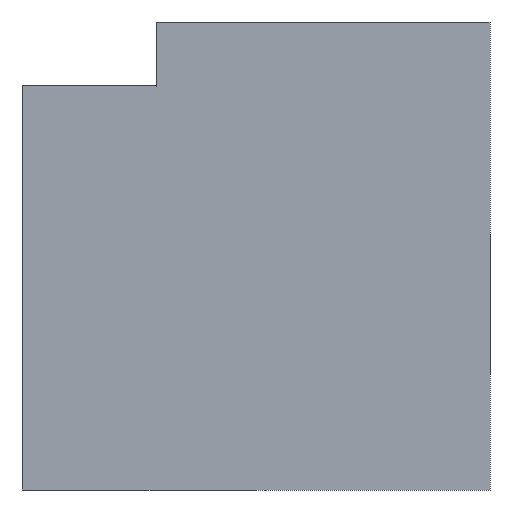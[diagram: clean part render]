
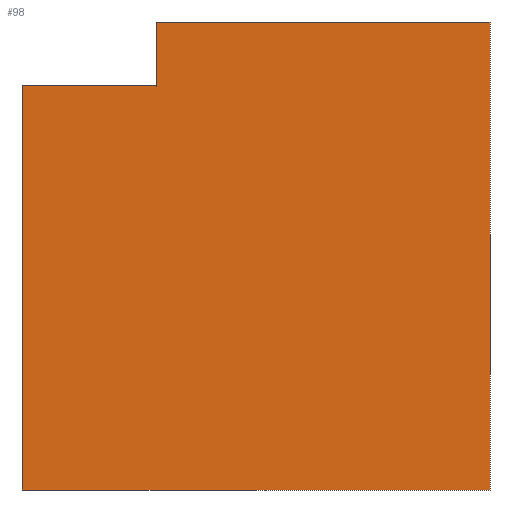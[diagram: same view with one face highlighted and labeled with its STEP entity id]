
A CAD part, left-side view. The second image highlights one B-rep face of the part: STEP entity #98.
In plain terms, the highlighted planar face has unit normal (-1, 0, 0).
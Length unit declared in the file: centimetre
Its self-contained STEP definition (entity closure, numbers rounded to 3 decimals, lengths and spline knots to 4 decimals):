
#7 = ORIENTED_EDGE ( 'NONE', *, *, #278, .T. ) ;
#13 = DIRECTION ( 'NONE',  ( 0., -1., 0. ) ) ;
#25 = ORIENTED_EDGE ( 'NONE', *, *, #296, .T. ) ;
#36 = AXIS2_PLACEMENT_3D ( 'NONE', #62, #330, #259 ) ;
#43 = CARTESIAN_POINT ( 'NONE',  ( 0., 713.4829, 864.9254 ) ) ;
#52 = CARTESIAN_POINT ( 'NONE',  ( 0., 1000., 0. ) ) ;
#62 = CARTESIAN_POINT ( 'NONE',  ( 0., 1000., 1000. ) ) ;
#67 = CARTESIAN_POINT ( 'NONE',  ( 0., 713.4829, 864.9254 ) ) ;
#94 = VERTEX_POINT ( 'NONE', #433 ) ;
#96 = VECTOR ( 'NONE', #13, 100. ) ;
#98 = ADVANCED_FACE ( 'NONE', ( #256 ), #367, .F. ) ;
#102 = CARTESIAN_POINT ( 'NONE',  ( 0., 1000., 864.9254 ) ) ;
#117 = VERTEX_POINT ( 'NONE', #375 ) ;
#127 = LINE ( 'NONE', #373, #166 ) ;
#132 = CARTESIAN_POINT ( 'NONE',  ( 0., 713.4829, 1000. ) ) ;
#139 = ORIENTED_EDGE ( 'NONE', *, *, #363, .T. ) ;
#146 = VECTOR ( 'NONE', #335, 100. ) ;
#166 = VECTOR ( 'NONE', #199, 100. ) ;
#183 = VECTOR ( 'NONE', #383, 100. ) ;
#197 = CARTESIAN_POINT ( 'NONE',  ( 0., 713.4829, 864.9254 ) ) ;
#199 = DIRECTION ( 'NONE',  ( 0., 0., -1. ) ) ;
#206 = VERTEX_POINT ( 'NONE', #67 ) ;
#210 = VERTEX_POINT ( 'NONE', #132 ) ;
#234 = DIRECTION ( 'NONE',  ( 0., 0., 1. ) ) ;
#243 = ORIENTED_EDGE ( 'NONE', *, *, #418, .F. ) ;
#256 = FACE_OUTER_BOUND ( 'NONE', #353, .T. ) ;
#258 = DIRECTION ( 'NONE',  ( 0., -1., 0. ) ) ;
#259 = DIRECTION ( 'NONE',  ( 0., 0., -1. ) ) ;
#268 = CARTESIAN_POINT ( 'NONE',  ( 0., 0., 1000. ) ) ;
#277 = VERTEX_POINT ( 'NONE', #102 ) ;
#278 = EDGE_CURVE ( 'NONE', #206, #277, #347, .T. ) ;
#296 = EDGE_CURVE ( 'NONE', #94, #117, #318, .T. ) ;
#307 = CARTESIAN_POINT ( 'NONE',  ( 0., 1000., 1000. ) ) ;
#310 = VERTEX_POINT ( 'NONE', #323 ) ;
#318 = LINE ( 'NONE', #52, #96 ) ;
#320 = ORIENTED_EDGE ( 'NONE', *, *, #386, .F. ) ;
#323 = CARTESIAN_POINT ( 'NONE',  ( 0., 0., 1000. ) ) ;
#330 = DIRECTION ( 'NONE',  ( 1., 0., 0. ) ) ;
#333 = LINE ( 'NONE', #307, #406 ) ;
#335 = DIRECTION ( 'NONE',  ( 0., 0., -1. ) ) ;
#347 = LINE ( 'NONE', #43, #183 ) ;
#353 = EDGE_LOOP ( 'NONE', ( #243, #7, #139, #25, #417, #320 ) ) ;
#363 = EDGE_CURVE ( 'NONE', #277, #94, #127, .T. ) ;
#367 = PLANE ( 'NONE',  #36 ) ;
#370 = EDGE_CURVE ( 'NONE', #310, #117, #376, .T. ) ;
#373 = CARTESIAN_POINT ( 'NONE',  ( 0., 1000., 1000. ) ) ;
#375 = CARTESIAN_POINT ( 'NONE',  ( 0., 0., 0. ) ) ;
#376 = LINE ( 'NONE', #268, #146 ) ;
#383 = DIRECTION ( 'NONE',  ( 0., 1., 0. ) ) ;
#386 = EDGE_CURVE ( 'NONE', #210, #310, #333, .T. ) ;
#387 = VECTOR ( 'NONE', #234, 100. ) ;
#405 = LINE ( 'NONE', #197, #387 ) ;
#406 = VECTOR ( 'NONE', #258, 100. ) ;
#417 = ORIENTED_EDGE ( 'NONE', *, *, #370, .F. ) ;
#418 = EDGE_CURVE ( 'NONE', #206, #210, #405, .T. ) ;
#433 = CARTESIAN_POINT ( 'NONE',  ( 0., 1000., 0. ) ) ;
